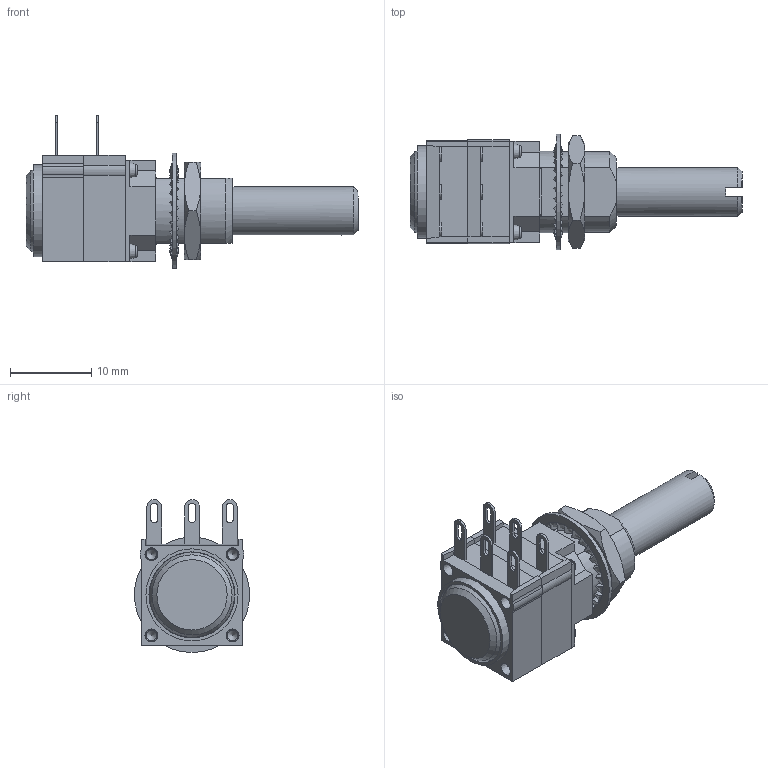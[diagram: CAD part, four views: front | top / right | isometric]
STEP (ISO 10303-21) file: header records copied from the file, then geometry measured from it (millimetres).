
FILE_DESCRIPTION(/* description */ ('Unknown'),/* implementation_level */ '2;1');
FILE_NAME(/* name */ 'P11S2V0FLSY00103KA',/* time_stamp */ '2017-11-24T17:32:47+01:00',/* author */ ('Unknown'),/* organization */ ('Unknown'),/* preprocessor_version */ 'ST-DEVELOPER v16.7',/* originating_system */ 'DEX',/* authorisation */ $);
FILE_SCHEMA (('AUTOMOTIVE_DESIGN { 1 0 10303 214 3 1 1 }','AUTOMOTIVE_DESIGN {1 0 10303 214 3 1 1}'));
Length unit declared in the file: millimetre
Products named in the file (12): P11S2V0FLSY00103KA-stp; 3653440; 3653020; M1-Y00-103_oa_0; 3650993; bande à chas; 3650540; M2-Y00-103_oa_1; 3653200; 0685710; Pièce5
Assembly tree (12 placements, depth 3):
  P11S2V0FLSY00103KA-stp
    3653440
    3653020
    M1-Y00-103_oa_0
      3650993
      bande à chas
    3650540
    M2-Y00-103_oa_1
      3650993
      bande à chas
    3653200
    0685710
    Pièce5
Bounding box: 40.91 x 14.2 x 18.85 mm (x, y, z)
Volume: 4148.5 mm3; surface area: 5425.1 mm2
Topology: 14 solids, 14 shells, 907 faces, 2471 edges, 1631 vertices
Faces by surface type: plane 477, cylinder 223, bspline 122, cone 75, torus 10
Full cylindrical faces by diameter (mm): 0.996 x4, 1.3 x12, 1.5 x14, 1.55 x4, 3.4 x1, 3.97 x1, 4 x1, 4.1 x2, 5.25 x2, 5.6 x1, 6 x2, 6.4 x2, 7.4 x1, 7.42 x1, 7.44 x2, 8.4 x1, 9.188 x1, 9.65 x1, 10.55 x3, 10.6 x2, 11.35 x2, 12.15 x1, 12.16 x1, 14.2 x1
Entity records: 28146 total; most frequent: CARTESIAN_POINT 7639, ORIENTED_EDGE 4234, DIRECTION 3606, EDGE_CURVE 2117, VERTEX_POINT 1452, AXIS2_PLACEMENT_3D 1241, LINE 1124, VECTOR 1124
